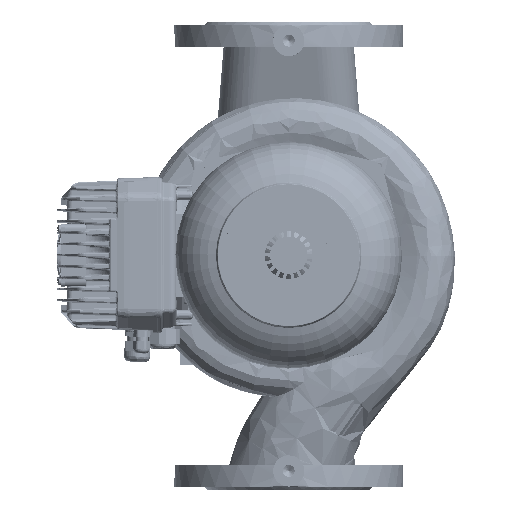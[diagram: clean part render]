
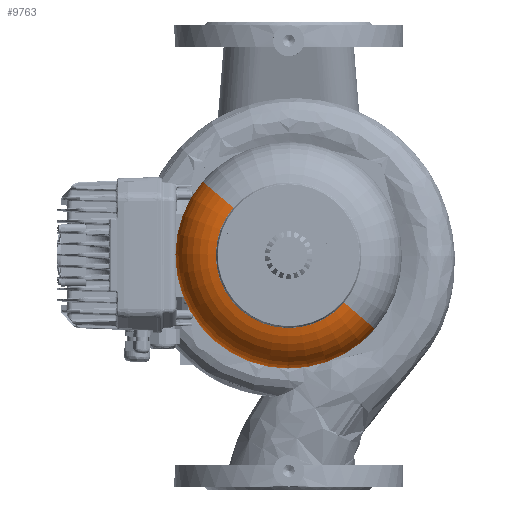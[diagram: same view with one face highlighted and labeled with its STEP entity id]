
A CAD part, top view. The second image highlights one B-rep face of the part: STEP entity #9763.
In plain terms, the highlighted toroidal (fillet/blend) face has major radius 59 mm and minor radius 50 mm.
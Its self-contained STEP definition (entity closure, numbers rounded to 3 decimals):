
#9763=ADVANCED_FACE('NONE',(#23248),#23249,.T.);
#23248=FACE_OUTER_BOUND('',#46608,.T.);
#23249=TOROIDAL_SURFACE('',#46609,59.,50.);
#46608=EDGE_LOOP('',(#122749,#122750,#122751,#122752));
#46609=AXIS2_PLACEMENT_3D('',#122753,#122754,#122755);
#122749=ORIENTED_EDGE('',*,*,#162362,.F.);
#122750=ORIENTED_EDGE('',*,*,#162360,.T.);
#122751=ORIENTED_EDGE('',*,*,#162363,.F.);
#122752=ORIENTED_EDGE('',*,*,#162364,.T.);
#122753=CARTESIAN_POINT('',(-50.739,33.07,256.514));
#122754=DIRECTION('',(0.,0.,1.0));
#122755=DIRECTION('',(-0.76,0.65,0.));
#162360=EDGE_CURVE('NONE',#185453,#185457,#185459,.T.);
#162362=EDGE_CURVE('',#185453,#185461,#185462,.T.);
#162363=EDGE_CURVE('',#185463,#185457,#185464,.T.);
#162364=EDGE_CURVE('NONE',#185463,#185461,#185465,.T.);
#185453=VERTEX_POINT('',#221340);
#185457=VERTEX_POINT('NONE',#221345);
#185459=CIRCLE('',#221348,109.);
#185461=VERTEX_POINT('NONE',#221350);
#185462=CIRCLE('',#221351,50.);
#185463=VERTEX_POINT('',#221352);
#185464=CIRCLE('',#221353,50.);
#185465=CIRCLE('',#221354,70.229);
#221340=CARTESIAN_POINT('',(-133.572,103.919,256.514));
#221345=CARTESIAN_POINT('',(32.095,-37.78,256.514));
#221348=AXIS2_PLACEMENT_3D('',#306656,#306657,#306658);
#221350=CARTESIAN_POINT('',(-104.108,78.718,305.237));
#221351=AXIS2_PLACEMENT_3D('',#306659,#306660,#306661);
#221352=CARTESIAN_POINT('',(2.631,-12.579,305.237));
#221353=AXIS2_PLACEMENT_3D('',#306662,#306663,#306664);
#221354=AXIS2_PLACEMENT_3D('',#306665,#306666,#306667);
#306656=CARTESIAN_POINT('',(-50.739,33.07,256.514));
#306657=DIRECTION('',(0.,0.,1.0));
#306658=DIRECTION('',(-0.76,0.65,0.0));
#306659=CARTESIAN_POINT('',(-95.575,71.419,256.514));
#306660=DIRECTION('',(0.65,0.76,0.));
#306661=DIRECTION('',(-0.76,0.65,0.));
#306662=CARTESIAN_POINT('',(-5.902,-5.28,256.514));
#306663=DIRECTION('',(0.65,0.76,0.));
#306664=DIRECTION('',(0.76,-0.65,0.));
#306665=CARTESIAN_POINT('',(-50.739,33.07,305.237));
#306666=DIRECTION('',(0.,0.,-1.0));
#306667=DIRECTION('',(0.76,-0.65,0.0));
